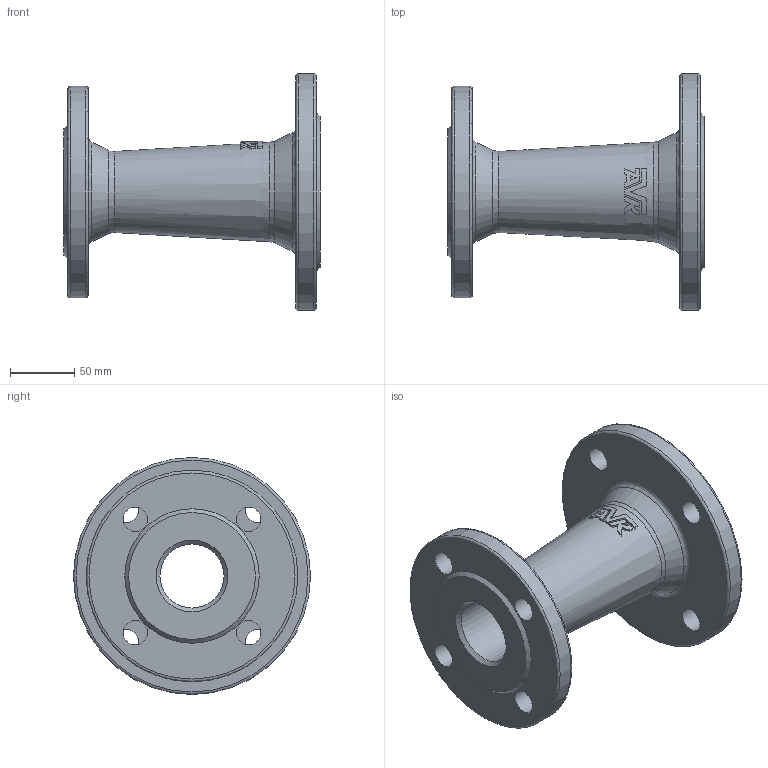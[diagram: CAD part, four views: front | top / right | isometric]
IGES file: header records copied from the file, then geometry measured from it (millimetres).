
Start section: SolidWorks IGES file using analytic representation for surfaces
Global section: file name: \\avksan2\techshare\PBM outline export from Enovia\O_712_2210_DN65_DN50_1X_REV01.igs; native system: SolidWorks 2022; preprocessor: SolidWorks 2022; author: pbm; date: 240807.125014; units: millimetre
Bounding box: 200 x 185 x 185 mm (x, y, z)
Surface area: 172195.9 mm2 (no closed solid volume)
Topology: 0 solids, 0 shells, 77 faces, 368 edges, 338 vertices
Faces by surface type: bspline 41, revolution 36
